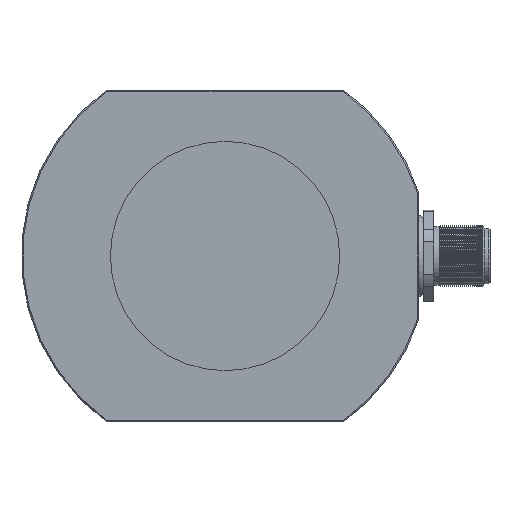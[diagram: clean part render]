
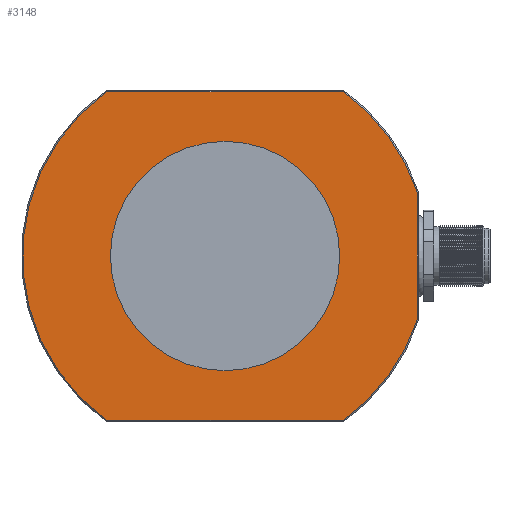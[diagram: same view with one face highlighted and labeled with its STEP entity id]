
A CAD part, left-side view. The second image highlights one B-rep face of the part: STEP entity #3148.
In plain terms, the highlighted planar face has unit normal (-1, 0, 0).
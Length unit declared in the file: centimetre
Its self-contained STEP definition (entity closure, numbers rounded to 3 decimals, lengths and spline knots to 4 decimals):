
#411=CIRCLE('',#3389,3.975);
#413=CIRCLE('',#3393,3.975);
#415=CIRCLE('',#3397,3.975);
#416=CIRCLE('',#3399,2.25);
#694=VERTEX_POINT('',#4512);
#695=VERTEX_POINT('',#4513);
#696=VERTEX_POINT('',#4524);
#698=VERTEX_POINT('',#4533);
#700=VERTEX_POINT('',#4542);
#701=VERTEX_POINT('',#4550);
#702=VERTEX_POINT('',#4559);
#977=VECTOR('',#3752,1.);
#978=VECTOR('',#3760,1.);
#980=VECTOR('',#3769,1.);
#1093=LINE('',#4511,#977);
#1094=LINE('',#4532,#978);
#1096=LINE('',#4549,#980);
#1223=EDGE_CURVE('',#694,#695,#1093,.T.);
#1226=EDGE_CURVE('',#695,#696,#411,.T.);
#1229=EDGE_CURVE('',#696,#698,#1094,.T.);
#1232=EDGE_CURVE('',#698,#700,#413,.T.);
#1235=EDGE_CURVE('',#700,#701,#1096,.T.);
#1237=EDGE_CURVE('',#701,#694,#415,.T.);
#1238=EDGE_CURVE('',#702,#702,#416,.T.);
#1671=ORIENTED_EDGE('',*,*,#1238,.T.);
#1672=ORIENTED_EDGE('',*,*,#1223,.F.);
#1673=ORIENTED_EDGE('',*,*,#1237,.F.);
#1674=ORIENTED_EDGE('',*,*,#1235,.F.);
#1675=ORIENTED_EDGE('',*,*,#1232,.F.);
#1676=ORIENTED_EDGE('',*,*,#1229,.F.);
#1677=ORIENTED_EDGE('',*,*,#1226,.F.);
#2447=EDGE_LOOP('',(#1671));
#2448=EDGE_LOOP('',(#1672,#1673,#1674,#1675,#1676,#1677));
#2798=FACE_BOUND('',#2447,.T.);
#2799=FACE_BOUND('',#2448,.T.);
#3148=ADVANCED_FACE('',(#2798,#2799),#5814,.F.);
#3389=AXIS2_PLACEMENT_3D('',#4523,#3755,#3756);
#3393=AXIS2_PLACEMENT_3D('',#4541,#3764,#3765);
#3397=AXIS2_PLACEMENT_3D('',#4556,#3772,#3773);
#3398=AXIS2_PLACEMENT_3D('',#4557,#3774,$);
#3399=AXIS2_PLACEMENT_3D('',#4558,#3775,#3776);
#3752=DIRECTION('',(0.,-1.,0.));
#3755=DIRECTION('',(1.,0.,0.));
#3756=DIRECTION('',(0.,-3.205,2.351));
#3760=DIRECTION('',(0.,0.,-1.));
#3764=DIRECTION('',(1.,0.,0.));
#3765=DIRECTION('',(0.,-3.205,-2.351));
#3769=DIRECTION('',(0.,1.,0.));
#3772=DIRECTION('',(1.,0.,0.));
#3773=DIRECTION('',(0.,3.975,0.));
#3774=DIRECTION('',(1.,0.,0.));
#3775=DIRECTION('',(1.,0.,0.));
#3776=DIRECTION('',(0.,0.,-2.25));
#4511=CARTESIAN_POINT('',(-3.3,0.,3.225));
#4512=CARTESIAN_POINT('',(-3.3,2.3238,3.225));
#4513=CARTESIAN_POINT('',(-3.3,-2.3238,3.225));
#4523=CARTESIAN_POINT('',(-3.3,0.,0.));
#4524=CARTESIAN_POINT('',(-3.3,-3.775,1.245));
#4532=CARTESIAN_POINT('',(-3.3,-3.775,0.));
#4533=CARTESIAN_POINT('',(-3.3,-3.775,-1.245));
#4541=CARTESIAN_POINT('',(-3.3,0.,0.));
#4542=CARTESIAN_POINT('',(-3.3,-2.3238,-3.225));
#4549=CARTESIAN_POINT('',(-3.3,0.,-3.225));
#4550=CARTESIAN_POINT('',(-3.3,2.3238,-3.225));
#4556=CARTESIAN_POINT('',(-3.3,0.,0.));
#4557=CARTESIAN_POINT('',(-3.3,0.,0.));
#4558=CARTESIAN_POINT('',(-3.3,0.,0.));
#4559=CARTESIAN_POINT('',(-3.3,0.,-2.25));
#5814=PLANE('',#3398);
